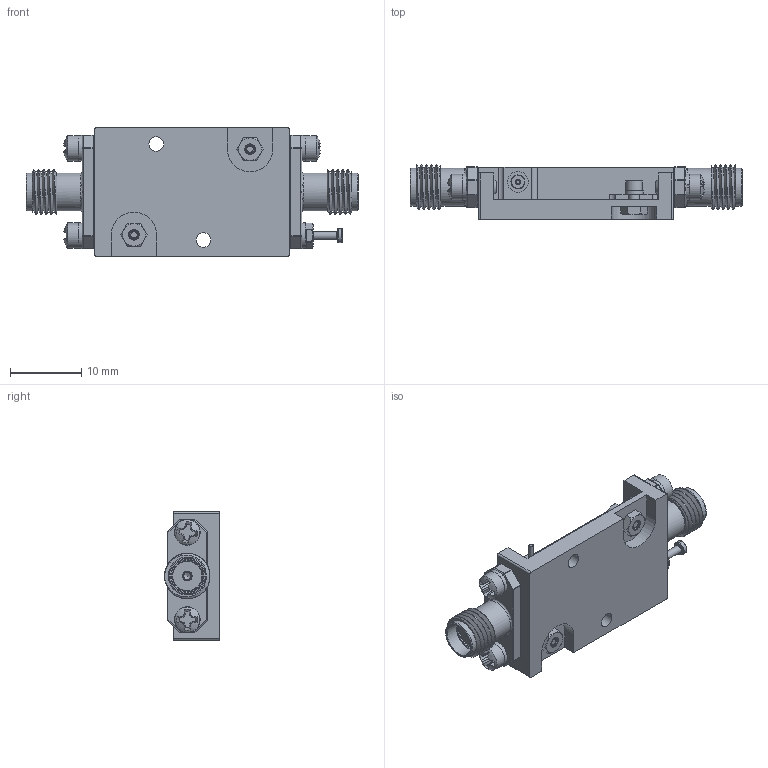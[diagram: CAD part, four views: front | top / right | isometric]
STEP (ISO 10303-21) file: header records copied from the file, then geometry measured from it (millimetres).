
FILE_DESCRIPTION (( 'STEP AP214' ), '1' );
FILE_NAME ('PE2-30-0R12-20-12-SFF.STEP', '2026-09-15T20:03:44', ( '' ), ( '' ), 'SwSTEP 2.0', 'SolidWorks 2025', '' );
FILE_SCHEMA (( 'AUTOMOTIVE_DESIGN' ));
Length unit declared in the file: inch
Products named in the file (1): PE2-30-0R12-20-12-SFF
Bounding box: 46.48 x 7.67 x 18.03 mm (x, y, z)
Volume: 2720.9 mm3; surface area: 5185.1 mm2
Topology: 30 solids, 30 shells, 833 faces, 2604 edges, 1945 vertices
Faces by surface type: plane 411, cylinder 199, torus 72, cone 70, sphere 61, bspline 20
Full cylindrical faces by diameter (mm): 0.305 x4, 0.508 x2, 0.635 x4, 0.711 x2, 0.762 x2, 1.016 x2, 1.067 x1, 1.18 x6, 1.27 x2, 1.295 x2, 1.524 x8, 1.575 x2, 1.6 x2, 1.702 x2, 1.93 x5, 1.956 x2, 2.007 x2, 2.057 x2, 2.184 x8, 2.286 x2, 2.515 x2, 2.591 x4, 2.896 x2, 3.175 x2, 3.302 x2, 3.556 x3, 4.191 x4, 4.597 x2, 5.283 x4
Entity records: 44683 total; most frequent: CARTESIAN_POINT 11332, ORIENTED_EDGE 4702, DIRECTION 4319, EDGE_CURVE 2351, VERTEX_POINT 1919, AXIS2_PLACEMENT_3D 1557, EDGE_LOOP 1214, LINE 1205
